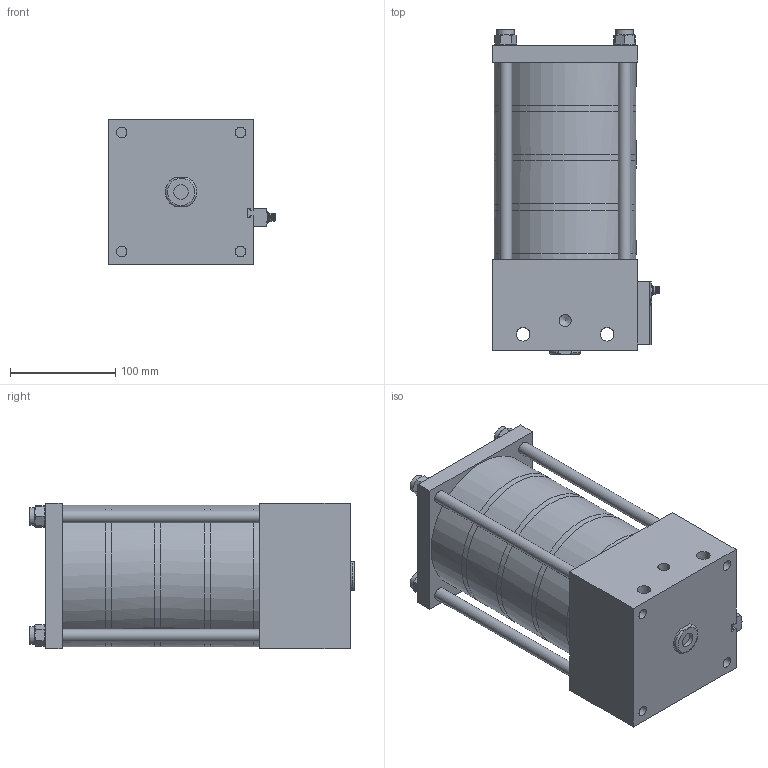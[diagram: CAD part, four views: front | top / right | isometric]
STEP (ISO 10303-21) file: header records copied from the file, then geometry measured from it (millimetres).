
FILE_DESCRIPTION((''),'2;1');
FILE_NAME('C:\VaultWork\Zeichnungen\Maßblätter\Multizylinder\M125\M125-12\M01729-4-0 Maßblatt Multizylinder M125-5-12 mit berührungsloser Abfrage.stp','2013-01-31T15:55:56',('Sergeew'),(''),'Autodesk Inventor 2012','Autodesk Inventor 2012','');
FILE_SCHEMA(('AUTOMOTIVE_DESIGN { 1 0 10303 214 1 1 1 1 }'));
Length unit declared in the file: millimetre
Products named in the file (1): M01729-4-0 Maßblatt Multizylinder M125-5-12 mit berührungsloser Abfrage
Bounding box: 158.7 x 308.9 x 138 mm (x, y, z)
Volume: 4702800.1 mm3; surface area: 234515.3 mm2
Topology: 6 solids, 6 shells, 199 faces, 493 edges, 326 vertices
Faces by surface type: plane 103, cylinder 62, cone 31, bspline 2, torus 1
Full cylindrical faces by diameter (mm): 1 x4, 3 x6, 4.6 x1, 5.8 x1, 6.5 x2, 6.9 x1, 8 x1, 9 x1, 10.106 x4, 11.445 x2, 12 x7, 13 x2, 13.835 x1, 16.6 x4, 135 x8
Entity records: 5685 total; most frequent: CARTESIAN_POINT 1356, DIRECTION 854, ORIENTED_EDGE 778, EDGE_CURVE 389, AXIS2_PLACEMENT_3D 343, EDGE_LOOP 320, VERTEX_POINT 299, FACE_OUTER_BOUND 199
